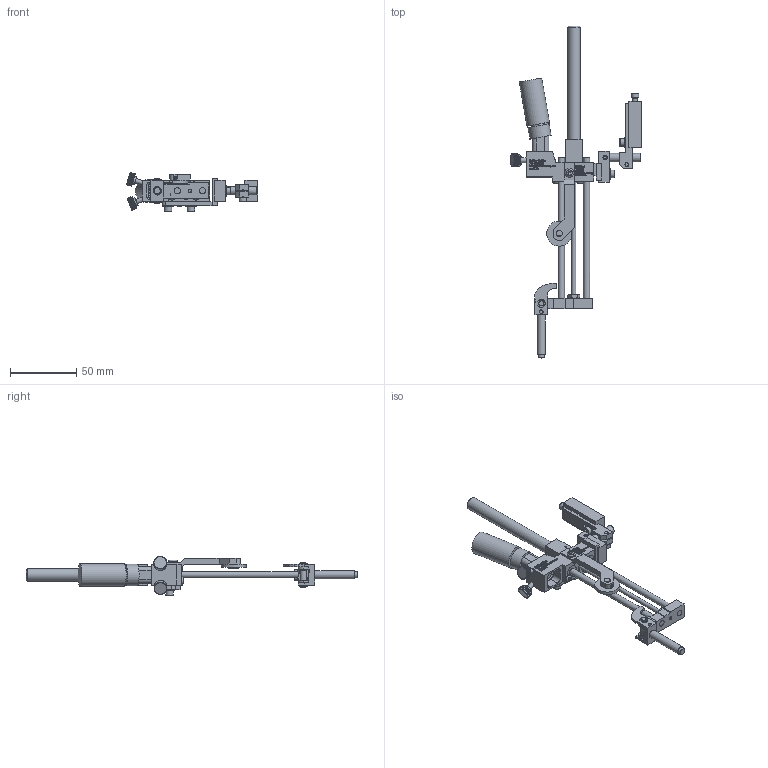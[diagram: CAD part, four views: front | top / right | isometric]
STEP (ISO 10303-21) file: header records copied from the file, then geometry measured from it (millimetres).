
FILE_DESCRIPTION((''),'2;1');
FILE_NAME('C:\Documents and Settings\Ron\My Documents\Inventor\Sprinter Drawing\Machines in Inventor\Model 22\Dot\3-sixth\Ext Hd 1in\Brkt\Ext\Model 22 EH 1 3-16 dot ext w brkt.stp','2009-01-19T09:19:55',('Ron'),(''),'Autodesk Inventor 2008','Autodesk Inventor 2008','');
FILE_SCHEMA(('AUTOMOTIVE_DESIGN { 1 0 10303 214 1 1 1 1 }'));
Length unit declared in the file: inch
Products named in the file (1): Model 22 EH 1 3-16 dot ext w brkt
Bounding box: 99.17 x 251.29 x 29.55 mm (x, y, z)
Volume: 62103.6 mm3; surface area: 37170.2 mm2
Topology: 35 solids, 35 shells, 4725 faces, 13113 edges, 8709 vertices
Faces by surface type: plane 2882, bspline 1287, cylinder 487, cone 55, torus 14
Full cylindrical faces by diameter (mm): 2.845 x3, 2.946 x2, 3.175 x4, 3.493 x1, 3.505 x7, 3.556 x2, 3.658 x1, 3.876 x1, 3.962 x9, 4.064 x1, 4.166 x3, 4.648 x2, 4.699 x1, 4.75 x3, 4.763 x2, 4.788 x1, 5.41 x2, 5.74 x6, 6.096 x1, 6.325 x2, 6.337 x1, 6.35 x3, 6.477 x1, 6.655 x1, 7.925 x4, 7.938 x3, 8.128 x1, 9.525 x1, 10.922 x1, 11.938 x1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
Entity records: 165265 total; most frequent: CARTESIAN_POINT 48867, ORIENTED_EDGE 25666, DIRECTION 18390, EDGE_CURVE 12833, VECTOR 9014, LINE 9014, VERTEX_POINT 8612, EDGE_LOOP 5247
